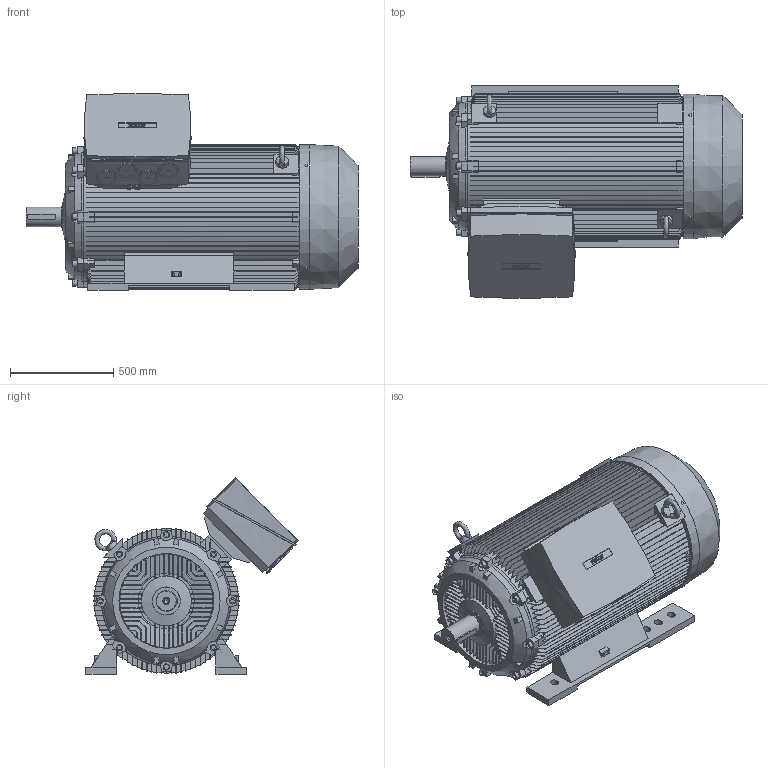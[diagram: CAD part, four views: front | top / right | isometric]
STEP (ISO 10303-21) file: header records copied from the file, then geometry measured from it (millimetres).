
FILE_DESCRIPTION (( 'STEP AP214' ), '1' );
FILE_NAME ('7RN355L04E35 IM1001.STEP', '2017-10-31T13:28:43', ( 'rbc_ict' ), ( '' ), 'SwSTEP 2.0', 'SolidWorks 2015', '' );
FILE_SCHEMA (( 'AUTOMOTIVE_DESIGN' ));
Length unit declared in the file: millimetre
Products named in the file (1): 7RN355L04E35 IM1001
Bounding box: 1607 x 1028.13 x 951.41 mm (x, y, z)
Volume: 525471042.6 mm3; surface area: 12725214.8 mm2
Topology: 1 solids, 16 shells, 1809 faces, 5135 edges, 3411 vertices
Faces by surface type: plane 1238, cylinder 285, bspline 255, cone 31
Full cylindrical faces by diameter (mm): 6.8 x1, 12 x4, 23 x2, 24 x1, 29 x2, 30 x8, 31 x2, 60 x2, 76 x4, 95 x1, 97 x4, 100 x1, 135 x1, 242 x1, 459 x1, 700 x1
Entity records: 90273 total; most frequent: CARTESIAN_POINT 27616, ORIENTED_EDGE 10140, DIRECTION 7582, EDGE_CURVE 5070, VERTEX_POINT 3392, VECTOR 2974, LINE 2974, AXIS2_PLACEMENT_3D 2304
